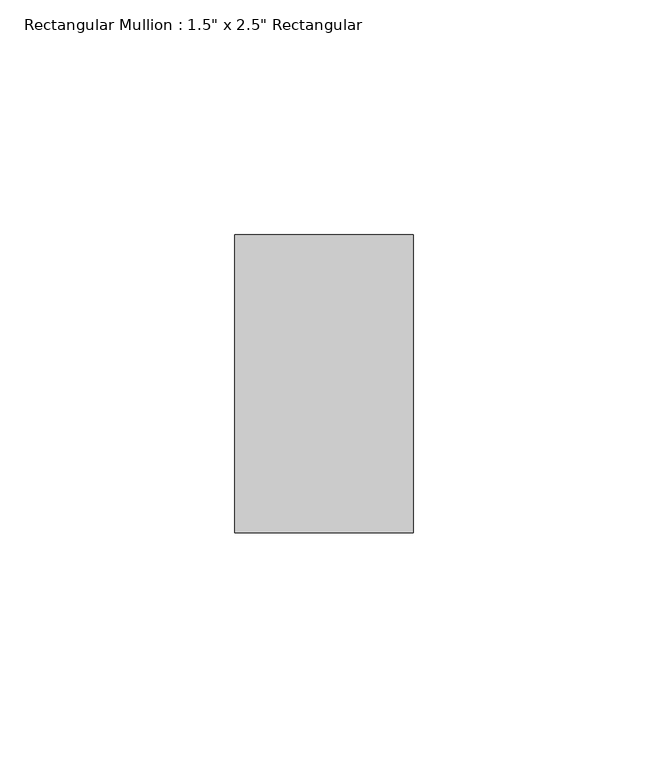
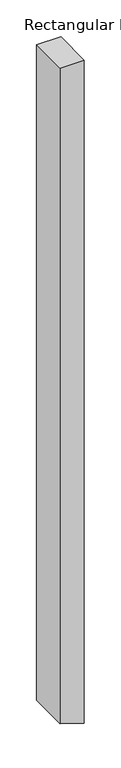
"""IFC4 building model written with IfcOpenShell, lengths in millimetres: member geometry."""

from ifc_helpers import new_model, si_unit, frame, origin, place, context, project, spatial, polyline, outline, extrude, source, transform, mapped, element, save


def member_dc9ac586(model_context):
    return source(origin(), model_context, "Body", "SweptSolid", [
        extrude(outline(polyline([(0.0, 19.05), (0.0, -19.05), (-1086.9640738, -19.05), (-1097.3301664, 12.0482779), (-1099.6640738, 19.05), (0.0, 19.05)])), frame((0.0, -31.75, 0.0), z_axis=(0.0, 1.0, 0.0), x_axis=(0.0, 0.0, 1.0)), (0.0, 0.0, 1.0), 63.5),
    ])


if __name__ == "__main__":
    model = new_model("IFC4")
    model_context = context("Model", 3, world=origin())
    ifc_project = project(units=[si_unit("LENGTHUNIT", "METRE", prefix="MILLI")], contexts=[model_context])
    site = spatial("IfcSite", under=ifc_project)
    building = spatial("IfcBuilding", under=site)
    placement = place(None, origin())
    member_shape = member_dc9ac586(model_context)
    element("IfcMember", 1, ObjectType="Rectangular Mullion : 1.5\" x 2.5\" Rectangular", at=placement, inside=building, context=model_context, shape_type="MappedRepresentation", body=[
        mapped(member_shape, transform((0.0, 0.0, 0.0), x_axis=(1.0, 0.0, 0.0), y_axis=(0.0, 1.0, 0.0), z_axis=(0.0, 0.0, 1.0))),
    ])
    save(model, "model.ifc")
